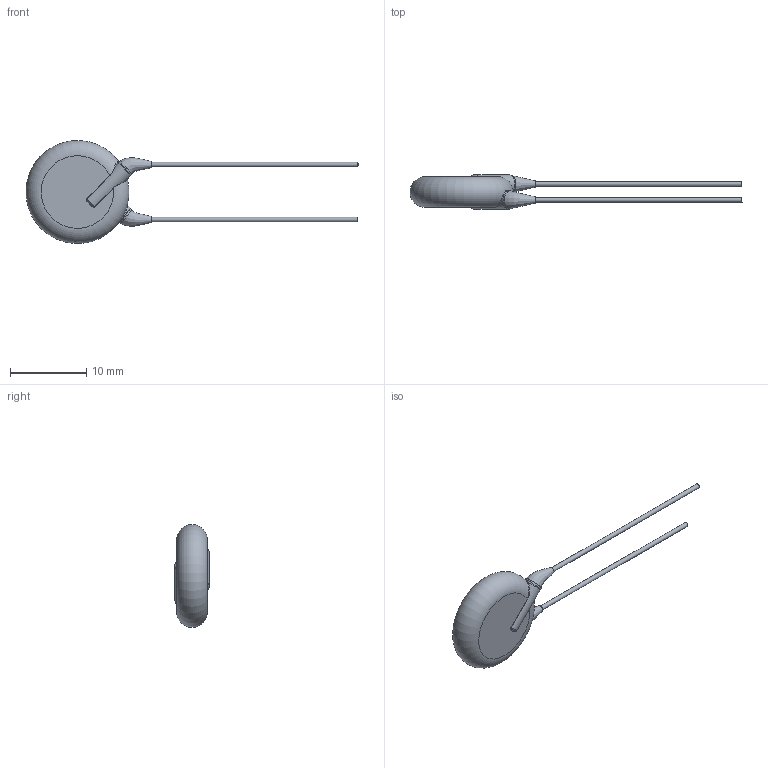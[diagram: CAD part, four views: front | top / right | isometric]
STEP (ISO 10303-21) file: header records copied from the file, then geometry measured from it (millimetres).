
FILE_DESCRIPTION(/* description */ (''),/* implementation_level */ '2;1');
FILE_NAME(/* name */ 'I:\Marketing\M6t1\3D-Models\Zchng-Werk-3\Upload for homepage\Roederstein\VKO\Y5U_300-440\VKO392MCQCF0KR\VKO392MCQCF0KR.stp',/* time_stamp */ '2018-03-19T14:20:51+01:00',/* author */ ('sheinrich'),/* organization */ (''),/* preprocessor_version */ 'ST-DEVELOPER v16.1',/* originating_system */ 'Autodesk Inventor 2016',/* authorisation */ '');
FILE_SCHEMA (('AUTOMOTIVE_DESIGN { 1 0 10303 214 3 1 1 }'));
Length unit declared in the file: centimetre
Products named in the file (1): VKO392MCQCF0KR
Bounding box: 43.48 x 4.5 x 13.47 mm (x, y, z)
Volume: 545.3 mm3; surface area: 523 mm2
Topology: 1 solids, 1 shells, 35 faces, 80 edges, 49 vertices
Faces by surface type: bspline 14, cylinder 8, torus 7, plane 6
Full cylindrical faces by diameter (mm): 0.6 x2
Entity records: 2079 total; most frequent: CARTESIAN_POINT 1328, ORIENTED_EDGE 152, DIRECTION 112, EDGE_CURVE 76, AXIS2_PLACEMENT_3D 52, VERTEX_POINT 48, EDGE_LOOP 40, B_SPLINE_CURVE_WITH_KNOTS 38
